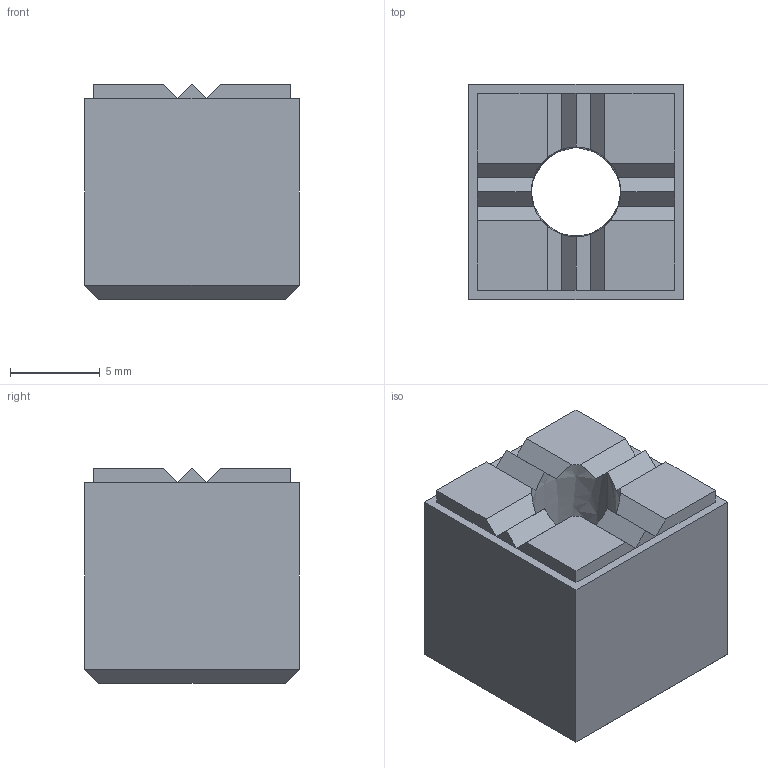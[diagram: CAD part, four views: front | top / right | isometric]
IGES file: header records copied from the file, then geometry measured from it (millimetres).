
Start section: SolidWorks IGES FILE using analytic representation for surfaces
Global section: file name: C:\WIX2\Positioning\3546\3546W004.igs; native system: SolidWorks 2003 by SolidWorks Corporation; preprocessor: Version 5.3; author: Joan; date: 030722.143903; units: millimetre
Bounding box: 12 x 12 x 12 mm (x, y, z)
Surface area: 992.7 mm2 (no closed solid volume)
Topology: 0 solids, 0 shells, 44 faces, 270 edges, 270 vertices
Faces by surface type: bspline 42, revolution 2
